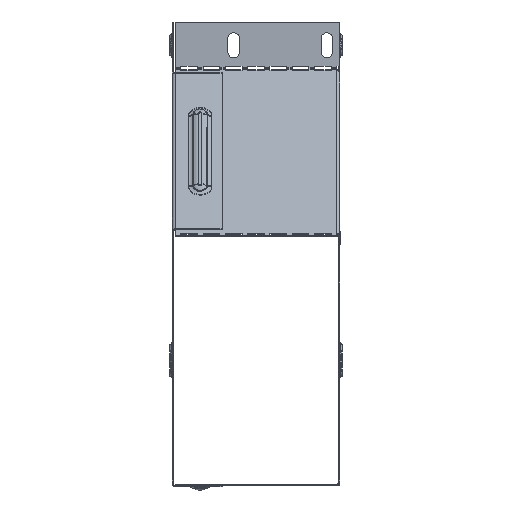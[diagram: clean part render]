
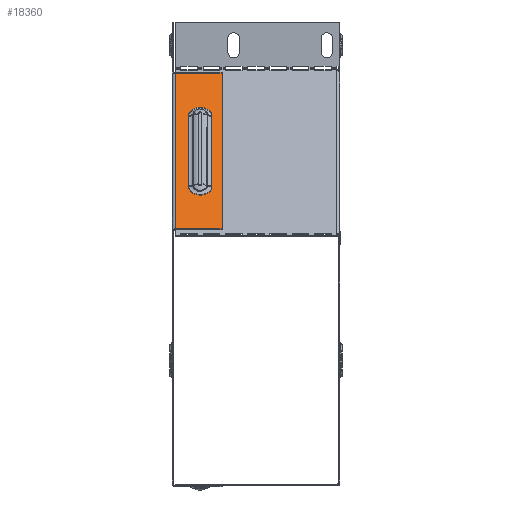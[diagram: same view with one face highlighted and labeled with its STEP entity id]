
A CAD part, left-side view. The second image highlights one B-rep face of the part: STEP entity #18360.
In plain terms, the highlighted planar face has unit normal (-0.707, 0, 0.707).
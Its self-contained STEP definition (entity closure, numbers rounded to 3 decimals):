
#475 = DIRECTION ( 'NONE',  ( 0.707, 0., -0.707 ) ) ;
#666 = DIRECTION ( 'NONE',  ( 0., 1., 0. ) ) ;
#2020 = CIRCLE ( 'NONE', #18050, 6.917 ) ;
#2068 = FACE_OUTER_BOUND ( 'NONE', #16370, .T. ) ;
#2309 = CARTESIAN_POINT ( 'NONE',  ( -172.917, 101.899, 153.96 ) ) ;
#2712 = DIRECTION ( 'NONE',  ( 0.707, 0., -0.707 ) ) ;
#2835 = VERTEX_POINT ( 'NONE', #4686 ) ;
#2893 = DIRECTION ( 'NONE',  ( -0.5, 0.707, -0.5 ) ) ;
#3009 = CARTESIAN_POINT ( 'NONE',  ( -78.96, 99., 247.917 ) ) ;
#3318 = AXIS2_PLACEMENT_3D ( 'NONE', #10030, #9843, #14140 ) ;
#3579 = VERTEX_POINT ( 'NONE', #22777 ) ;
#3962 = CARTESIAN_POINT ( 'NONE',  ( -163.438, 70.8, 163.438 ) ) ;
#4686 = CARTESIAN_POINT ( 'NONE',  ( -147.152, 90.817, 179.725 ) ) ;
#5828 = DIRECTION ( 'NONE',  ( -0.707, 0., -0.707 ) ) ;
#5832 = PLANE ( 'NONE',  #3318 ) ;
#6216 = DIRECTION ( 'NONE',  ( 0.707, 0., 0.707 ) ) ;
#6860 = VERTEX_POINT ( 'NONE', #13370 ) ;
#6971 = EDGE_CURVE ( 'NONE', #2835, #3579, #23812, .T. ) ;
#7067 = CIRCLE ( 'NONE', #12029, 6.917 ) ;
#7820 = LINE ( 'NONE', #8114, #24721 ) ;
#8114 = CARTESIAN_POINT ( 'NONE',  ( -104.725, 76.983, 222.152 ) ) ;
#8150 = EDGE_CURVE ( 'NONE', #19729, #17759, #23724, .T. ) ;
#8965 = VECTOR ( 'NONE', #666, 1000. ) ;
#9176 = CARTESIAN_POINT ( 'NONE',  ( -147.152, 83.9, 179.725 ) ) ;
#9396 = ORIENTED_EDGE ( 'NONE', *, *, #12260, .T. ) ;
#9835 = ORIENTED_EDGE ( 'NONE', *, *, #26305, .F. ) ;
#9843 = DIRECTION ( 'NONE',  ( 0.707, 0., -0.707 ) ) ;
#10030 = CARTESIAN_POINT ( 'NONE',  ( -163.438, 100.8, 163.438 ) ) ;
#10156 = CARTESIAN_POINT ( 'NONE',  ( -78.96, 100.8, 247.917 ) ) ;
#11208 = CARTESIAN_POINT ( 'NONE',  ( -172.917, 70.8, 153.96 ) ) ;
#12029 = AXIS2_PLACEMENT_3D ( 'NONE', #9176, #2712, #2893 ) ;
#12260 = EDGE_CURVE ( 'NONE', #14506, #17759, #25027, .T. ) ;
#13165 = FACE_BOUND ( 'NONE', #25643, .T. ) ;
#13318 = DIRECTION ( 'NONE',  ( -0.5, 0.707, -0.5 ) ) ;
#13370 = CARTESIAN_POINT ( 'NONE',  ( -104.725, 76.983, 222.152 ) ) ;
#13705 = ORIENTED_EDGE ( 'NONE', *, *, #26882, .T. ) ;
#14081 = CARTESIAN_POINT ( 'NONE',  ( -104.725, 90.817, 222.152 ) ) ;
#14140 = DIRECTION ( 'NONE',  ( -0.707, 0., -0.707 ) ) ;
#14356 = VECTOR ( 'NONE', #22681, 1000. ) ;
#14430 = VECTOR ( 'NONE', #17982, 1000. ) ;
#14506 = VERTEX_POINT ( 'NONE', #11208 ) ;
#15499 = VERTEX_POINT ( 'NONE', #19760 ) ;
#15792 = CARTESIAN_POINT ( 'NONE',  ( -78.96, 70.8, 247.917 ) ) ;
#16370 = EDGE_LOOP ( 'NONE', ( #20083, #9396, #22664, #9835 ) ) ;
#16629 = ORIENTED_EDGE ( 'NONE', *, *, #22405, .T. ) ;
#16683 = ORIENTED_EDGE ( 'NONE', *, *, #23393, .T. ) ;
#16905 = VERTEX_POINT ( 'NONE', #21992 ) ;
#17576 = VECTOR ( 'NONE', #20602, 1000. ) ;
#17759 = VERTEX_POINT ( 'NONE', #15792 ) ;
#17982 = DIRECTION ( 'NONE',  ( 0.707, 0., 0.707 ) ) ;
#18050 = AXIS2_PLACEMENT_3D ( 'NONE', #23554, #475, #13318 ) ;
#18360 = ADVANCED_FACE ( 'NONE', ( #13165, #2068 ), #5832, .F. ) ;
#19400 = ORIENTED_EDGE ( 'NONE', *, *, #6971, .T. ) ;
#19729 = VERTEX_POINT ( 'NONE', #3009 ) ;
#19760 = CARTESIAN_POINT ( 'NONE',  ( -147.152, 76.983, 179.725 ) ) ;
#20083 = ORIENTED_EDGE ( 'NONE', *, *, #24433, .F. ) ;
#20602 = DIRECTION ( 'NONE',  ( 0.707, 0., 0.707 ) ) ;
#21408 = VECTOR ( 'NONE', #6216, 1000. ) ;
#21992 = CARTESIAN_POINT ( 'NONE',  ( -172.917, 99., 153.96 ) ) ;
#22024 = LINE ( 'NONE', #26950, #21408 ) ;
#22405 = EDGE_CURVE ( 'NONE', #3579, #6860, #2020, .T. ) ;
#22664 = ORIENTED_EDGE ( 'NONE', *, *, #8150, .F. ) ;
#22681 = DIRECTION ( 'NONE',  ( 0., -1., 0. ) ) ;
#22777 = CARTESIAN_POINT ( 'NONE',  ( -104.725, 90.817, 222.152 ) ) ;
#23393 = EDGE_CURVE ( 'NONE', #6860, #15499, #7820, .T. ) ;
#23554 = CARTESIAN_POINT ( 'NONE',  ( -104.725, 83.9, 222.152 ) ) ;
#23724 = LINE ( 'NONE', #10156, #14356 ) ;
#23812 = LINE ( 'NONE', #14081, #14430 ) ;
#24433 = EDGE_CURVE ( 'NONE', #14506, #16905, #26175, .T. ) ;
#24721 = VECTOR ( 'NONE', #5828, 1000. ) ;
#25027 = LINE ( 'NONE', #3962, #17576 ) ;
#25643 = EDGE_LOOP ( 'NONE', ( #19400, #16629, #16683, #13705 ) ) ;
#26175 = LINE ( 'NONE', #2309, #8965 ) ;
#26305 = EDGE_CURVE ( 'NONE', #16905, #19729, #22024, .T. ) ;
#26882 = EDGE_CURVE ( 'NONE', #15499, #2835, #7067, .T. ) ;
#26950 = CARTESIAN_POINT ( 'NONE',  ( -76.838, 99., 250.038 ) ) ;
